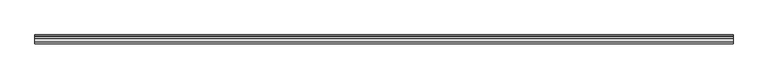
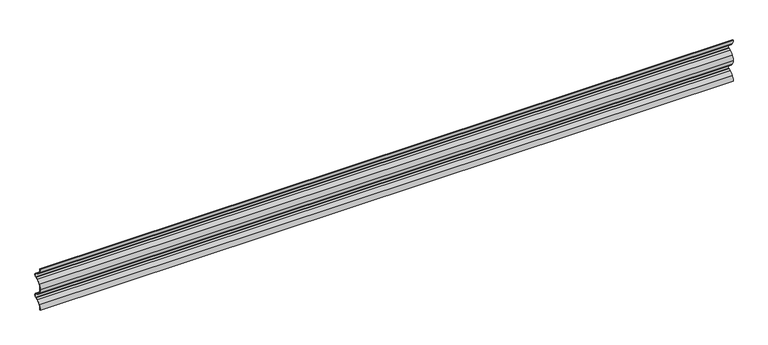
"""IFC4 building model written with IfcOpenShell, lengths in millimetres: plate geometry, Regolare Horizontal 178 : Regolare Horizontal 178."""

from ifc_helpers import new_model, si_unit, point, frame, frame_2d, origin, place, context, project, spatial, polyline, circle_curve, trimmed, segment, composite_curve, outline, extrude, source, transform, mapped, element, save


def plate_d7f294a5(model_context):
    return source(origin(), model_context, "Body", "SweptSolid", [
        extrude(outline(composite_curve([segment(trimmed(circle_curve(frame_2d((32.6206681, 174.5373329)), 30.6166783), [point((6.5021495, 158.562228))], [point((21.2504634, 146.1102431))], True, "CARTESIAN"), True, "CONTINUOUS"), segment(polyline([(21.2504634, 146.1102431), (28.4448583, 143.2286572), (31.9093405, 141.5680324)]), True, "CONTINUOUS"), segment(trimmed(circle_curve(frame_2d((28.0791236, 133.5772336)), 8.8613445), [point((31.9093405, 141.5680324))], [point((31.9093405, 125.5864348))], False, "CARTESIAN"), True, "CONTINUOUS"), segment(polyline([(31.9093405, 125.5864348), (28.4448583, 123.9258101), (21.2504634, 121.0442242)]), True, "CONTINUOUS"), segment(trimmed(circle_curve(frame_2d((32.6206681, 92.6171343)), 30.6166783), [point((21.2504634, 121.0442242))], [point((6.5021495, 108.5922392))], True, "CARTESIAN"), True, "CONTINUOUS"), segment(trimmed(circle_curve(frame_2d((38.4503244, 89.0514891)), 37.4503244), [point((6.5021495, 108.5922392))], [point((1.0, 89.0514891))], True, "CARTESIAN"), True, "CONTINUOUS"), segment(trimmed(circle_curve(frame_2d((38.4503244, 89.0514891)), 37.4503244), [point((1.0, 89.0514891))], [point((6.5021495, 69.5107389))], True, "CARTESIAN"), True, "CONTINUOUS"), segment(trimmed(circle_curve(frame_2d((32.6206681, 85.4858438)), 30.6166783), [point((6.5021495, 69.5107389))], [point((21.2504634, 57.058754))], True, "CARTESIAN"), True, "CONTINUOUS"), segment(polyline([(21.2504634, 57.058754), (28.4448583, 54.1771681), (31.9093405, 52.5165434)]), True, "CONTINUOUS"), segment(trimmed(circle_curve(frame_2d((28.0791236, 44.5257445)), 8.8613445), [point((31.9093405, 52.5165434))], [point((31.9093405, 36.5349457))], False, "CARTESIAN"), True, "CONTINUOUS"), segment(polyline([(31.9093405, 36.5349457), (28.4448583, 34.874321), (21.2504634, 31.9927351)]), True, "CONTINUOUS"), segment(trimmed(circle_curve(frame_2d((32.6206681, 3.5656452)), 30.6166783), [point((21.2504634, 31.9927351))], [point((6.5021495, 19.5407501))], True, "CARTESIAN"), True, "CONTINUOUS"), segment(trimmed(circle_curve(frame_2d((38.4503244, 0.0)), 37.4503244), [point((6.5021495, 19.5407501))], [point((1.0, 0.0))], True, "CARTESIAN"), True, "CONTINUOUS"), segment(polyline([(1.0, 0.0), (0.0, 0.0)]), True, "CONTINUOUS"), segment(trimmed(circle_curve(frame_2d((38.4503244, 0.0)), 38.4503244), [point((0.0, 0.0))], [point((5.6490681, 20.062528))], False, "CARTESIAN"), True, "CONTINUOUS"), segment(trimmed(circle_curve(frame_2d((32.6206681, 3.5656452)), 31.6166783), [point((5.6490681, 20.062528))], [point((20.878867, 32.9211295))], False, "CARTESIAN"), True, "CONTINUOUS"), segment(polyline([(20.878867, 32.9211295), (28.0423924, 35.7903512), (31.4771017, 37.4367049)]), True, "CONTINUOUS"), segment(trimmed(circle_curve(frame_2d((28.0791236, 44.5257445)), 7.8613445), [point((31.4771017, 37.4367049))], [point((31.4771017, 51.6147842))], True, "CARTESIAN"), True, "CONTINUOUS"), segment(polyline([(31.4771017, 51.6147842), (28.0423924, 53.2611379), (20.878867, 56.1303596)]), True, "CONTINUOUS"), segment(trimmed(circle_curve(frame_2d((32.6206681, 85.4858438)), 31.6166783), [point((20.878867, 56.1303596))], [point((5.6490681, 68.9889611))], False, "CARTESIAN"), True, "CONTINUOUS"), segment(trimmed(circle_curve(frame_2d((38.4503244, 89.0514891)), 38.4503244), [point((5.6490681, 68.9889611))], [point((0.0, 89.0514891))], False, "CARTESIAN"), True, "CONTINUOUS"), segment(trimmed(circle_curve(frame_2d((38.4503244, 89.0514891)), 38.4503244), [point((0.0, 89.0514891))], [point((5.6490681, 109.1140171))], False, "CARTESIAN"), True, "CONTINUOUS"), segment(trimmed(circle_curve(frame_2d((32.6206681, 92.6171343)), 31.6166783), [point((5.6490681, 109.1140171))], [point((20.878867, 121.9726185))], False, "CARTESIAN"), True, "CONTINUOUS"), segment(polyline([(20.878867, 121.9726185), (28.0423924, 124.8418403), (31.4771017, 126.488194)]), True, "CONTINUOUS"), segment(trimmed(circle_curve(frame_2d((28.0791236, 133.5772336)), 7.8613445), [point((31.4771017, 126.488194))], [point((31.4771017, 140.6662733))], True, "CARTESIAN"), True, "CONTINUOUS"), segment(polyline([(31.4771017, 140.6662733), (28.0423924, 142.312627), (20.878867, 145.1818487)]), True, "CONTINUOUS"), segment(trimmed(circle_curve(frame_2d((32.6206681, 174.5373329)), 31.6166783), [point((20.878867, 145.1818487))], [point((5.6490681, 158.0404502))], False, "CARTESIAN"), True, "CONTINUOUS"), segment(trimmed(circle_curve(frame_2d((38.4503244, 178.1029782)), 38.4503244), [point((5.6490681, 158.0404502))], [point((0.0, 178.1029782))], False, "CARTESIAN"), True, "CONTINUOUS"), segment(polyline([(0.0, 178.1029782), (1.0, 178.1029782)]), True, "CONTINUOUS"), segment(trimmed(circle_curve(frame_2d((38.4503244, 178.1029782)), 37.4503244), [point((1.0, 178.1029782))], [point((6.5021495, 158.562228))], True, "CARTESIAN"), True, "CONTINUOUS")], self_intersect=False)), frame((-1424.5, 0.0, 0.0), z_axis=(1.0, 0.0, 0.0), x_axis=(0.0, 1.0, 0.0)), (0.0, 0.0, 1.0), 2849.0),
    ])


if __name__ == "__main__":
    model = new_model("IFC4")
    model_context = context("Model", 3, world=origin())
    ifc_project = project(units=[si_unit("LENGTHUNIT", "METRE", prefix="MILLI")], contexts=[model_context])
    site = spatial("IfcSite", under=ifc_project)
    building = spatial("IfcBuilding", under=site)
    placement = place(None, origin())
    plate_shape = plate_d7f294a5(model_context)
    element("IfcPlate", 1, ObjectType="Regolare Horizontal 178 : Regolare Horizontal 178", at=placement, inside=building, context=model_context, shape_type="MappedRepresentation", body=[
        mapped(plate_shape, transform((0.0, 0.0, 0.0), x_axis=(1.0, 0.0, 0.0), y_axis=(0.0, 1.0, 0.0), z_axis=(0.0, 0.0, 1.0))),
    ])
    save(model, "model.ifc")
